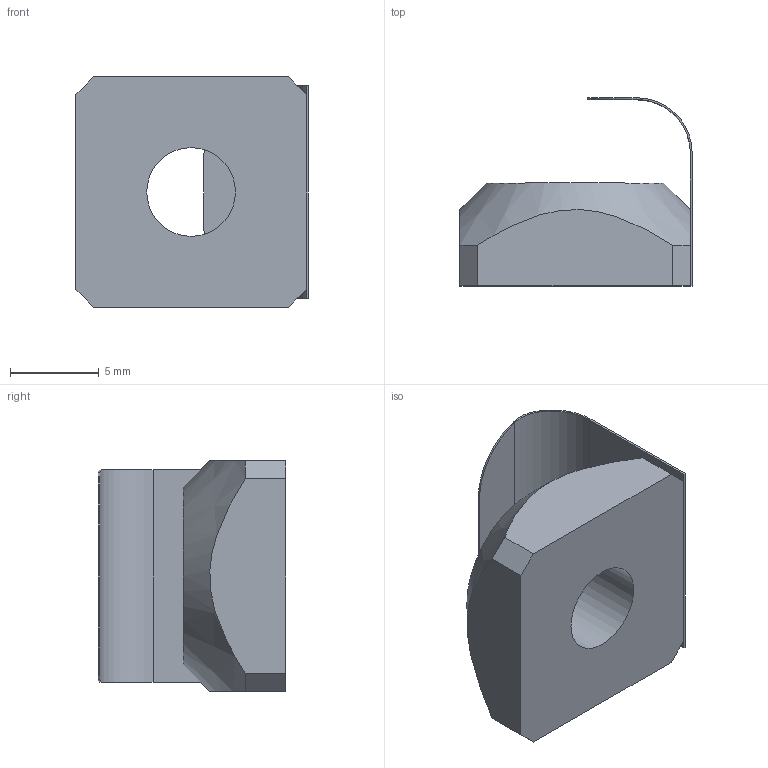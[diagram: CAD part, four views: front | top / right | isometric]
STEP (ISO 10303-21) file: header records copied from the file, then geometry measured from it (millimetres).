
FILE_DESCRIPTION (( 'STEP AP214' ), '1' );
FILE_NAME ('Ecrou à languette.step', '2024-12-03T16:29:18', ( '' ), ( '' ), 'SwSTEP 2.0', 'SolidWorks 2023', '' );
FILE_SCHEMA (( 'AUTOMOTIVE_DESIGN' ));
Length unit declared in the file: millimetre
Products named in the file (1): Ecrou à languette
Bounding box: 13.1 x 10.6 x 13 mm (x, y, z)
Volume: 748.9 mm3; surface area: 941 mm2
Topology: 2 solids, 2 shells, 27 faces, 64 edges, 41 vertices
Faces by surface type: plane 20, cylinder 5, cone 2
Full cylindrical faces by diameter (mm): 5 x1
Entity records: 874 total; most frequent: CARTESIAN_POINT 244, ORIENTED_EDGE 120, DIRECTION 116, EDGE_CURVE 60, AXIS2_PLACEMENT_3D 40, VERTEX_POINT 40, VECTOR 36, LINE 36
